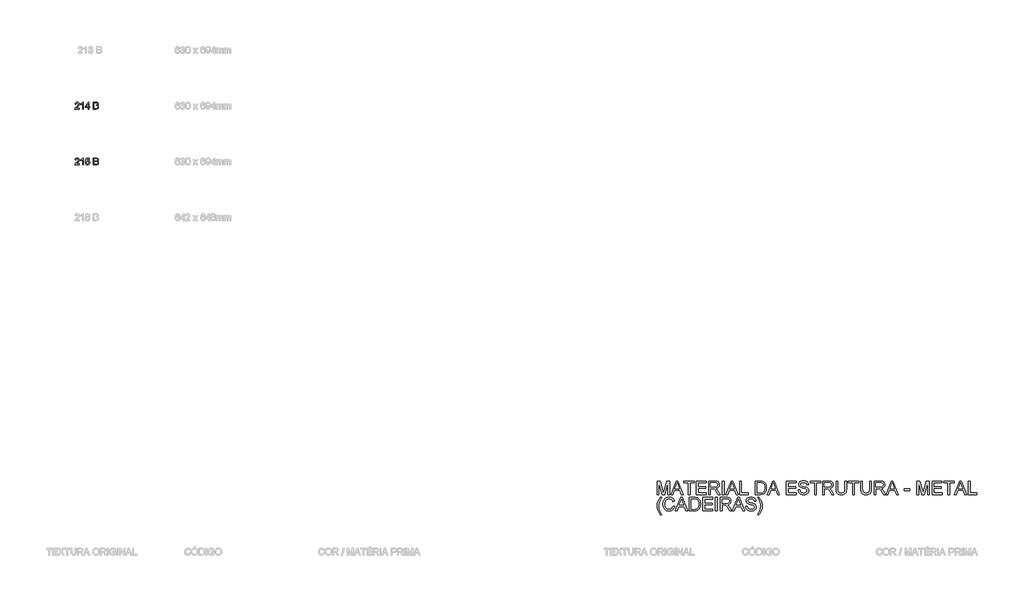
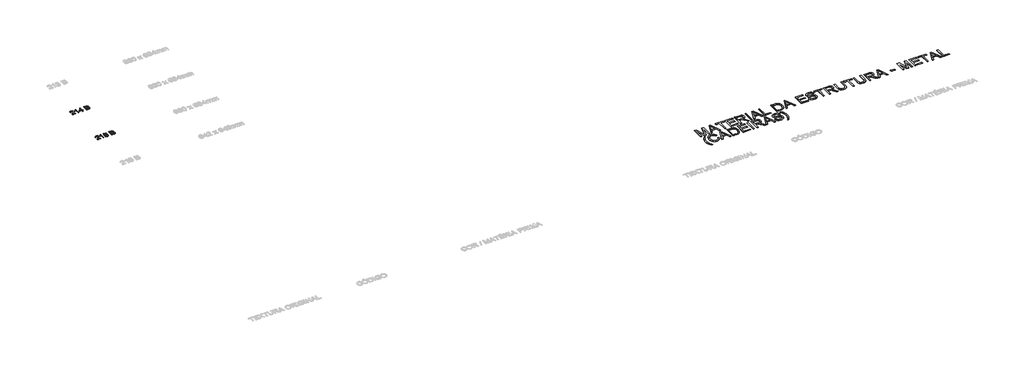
# One storey, part 30 of 35: 3 proxies.
"""IFC4 building model written with IfcOpenShell, lengths in millimetres."""

from ifc_helpers import new_model, si_unit, origin, origin_with_axes, place, context, project, spatial, polyline, outline, extrude, element, save

model = new_model("IFC4")

# Units and contexts
model_context = context("Model", 3, world=origin())
ifc_project = project(units=[si_unit("LENGTHUNIT", "METRE", prefix="MILLI")], contexts=[model_context])

# Site, building, storey
site = spatial("IfcSite", under=ifc_project)
building = spatial("IfcBuilding", under=site)
storey = spatial("IfcBuildingStorey", under=building, Name="Marelli - Linha YOU - Planta Baixa", Elevation=0.0)

# Proxies
placement = place(None, origin())
element("IfcBuildingElementProxy", 1, Name="300mm Arial", ObjectType="300mm Arial", at=placement, inside=storey, context=model_context, shape_type="SweptSolid", body=[
    extrude(outline(polyline([(-29649.0268614, 3757.1047962), (-29649.0268614, 3719.4336799), (-29846.800222, 3719.4336799), (-29842.75352, 3745.4061488), (-29833.4644997, 3765.7040379), (-29819.8712599, 3785.3949217), (-29800.2079673, 3806.0055104), (-29772.7087882, 3829.0625145), (-29732.0578277, 3865.1701323), (-29707.6672514, 3891.8231829), (-29695.4719633, 3913.4546442), (-29691.4068672, 3934.4974943), (-29695.242037, 3953.3606436), (-29706.7475464, 3969.0416137), (-29724.4334733, 3979.609024), (-29746.8098957, 3983.1314941), (-29770.3083581, 3979.6917974), (-29788.5645022, 3969.3727075), (-29800.345923, 3952.9835646), (-29804.4202161, 3931.3337092), (-29842.0913324, 3936.0425987), (-29832.9586619, 3972.4813103), (-29824.4123033, 3987.0172476), (-29813.2125958, 3999.0975727), (-29799.6170568, 4008.5935267), (-29783.8832038, 4015.376351), (-29746.0005553, 4020.8026104), (-29725.8107316, 4019.2942942), (-29707.8419954, 4014.7693457), (-29692.0943467, 4007.2277648), (-29678.5677856, 3996.6695515), (-29667.7037704, 3983.8764551), (-29659.9437596, 3969.6302249), (-29655.2877531, 3953.9308607), (-29653.7357509, 3936.7783627), (-29655.409614, 3918.761342), (-29660.4312032, 3901.057021), (-29669.3431446, 3883.0491973), (-29682.6880639, 3864.1216686), (-29703.9608403, 3841.5245171), (-29736.6563526, 3812.5078247), (-29779.9928517, 3776.2714482), (-29796.9889998, 3757.1047962), (-29649.0268614, 3757.1047962)])), origin_with_axes(), (0.0, 0.0, 1.0), 10.0),
    extrude(outline(polyline([(-29470.0890589, 3719.4336799), (-29507.7601752, 3719.4336799), (-29507.7601752, 3954.2895457), (-29543.4447288, 3928.8688998), (-29583.1024078, 3909.8494006), (-29583.1024078, 3945.4603778), (-29553.5154984, 3961.5552151), (-29527.8833204, 3980.7034729), (-29507.6774018, 4001.0657413), (-29494.3692706, 4020.8026104), (-29470.0890589, 4020.8026104), (-29470.0890589, 3719.4336799)])), origin_with_axes(), (0.0, 0.0, 1.0), 10.0),
    extrude(outline(polyline([(-29258.1890297, 3719.4336799), (-29258.1890297, 3790.067023), (-29394.7468263, 3790.067023), (-29394.7468263, 3827.7381393), (-29248.7712506, 4016.0937208), (-29220.5179134, 4016.0937208), (-29220.5179134, 3827.7381393), (-29182.8467971, 3827.7381393), (-29182.8467971, 3790.067023), (-29220.5179134, 3790.067023), (-29220.5179134, 3719.4336799), (-29258.1890297, 3719.4336799)]), holes=[polyline([(-29258.1890297, 3827.7381393), (-29258.1890297, 3944.1360026), (-29348.3936949, 3827.7381393), (-29258.1890297, 3827.7381393)])]), origin_with_axes(), (0.0, 0.0, 1.0), 10.0),
    extrude(outline(polyline([(-29018.0356633, 3719.4336799), (-29018.0356633, 4020.8026104), (-28903.0357516, 4020.8026104), (-28871.407097, 4018.5861214), (-28846.7130181, 4011.9366543), (-28827.7854894, 4000.6886623), (-28813.4564857, 3984.6765985), (-28804.4341798, 3965.8410403), (-28801.4267445, 3946.1225654), (-28803.9559332, 3927.9767859), (-28811.5434994, 3910.9162584), (-28824.2446252, 3895.9894465), (-28842.1144932, 3884.2448138), (-28820.7681404, 3873.0979893), (-28804.9951998, 3856.1386293), (-28795.255524, 3834.4887739), (-28792.0089654, 3809.2704632), (-28794.2254544, 3788.2552042), (-28800.8749215, 3768.7666555), (-28810.7985383, 3752.1935716), (-28822.8374766, 3739.9247071), (-28837.5803476, 3731.0403569), (-28855.6157624, 3724.6208161), (-28903.9186683, 3719.4336799), (-29018.0356633, 3719.4336799)]), holes=[polyline([(-28980.3645469, 3898.3714824), (-28911.5706138, 3898.3714824), (-28871.3979, 3901.6088439), (-28857.3356107, 3907.1914532), (-28847.2280529, 3915.5515716), (-28841.1304088, 3926.5604403), (-28839.0978608, 3940.0893006), (-28840.9924531, 3953.2226879), (-28846.6762299, 3964.6638179), (-28855.8916739, 3973.5941533), (-28868.3812676, 3979.1951567), (-28916.7945382, 3983.1314941), (-28980.3645469, 3983.1314941), (-28980.3645469, 3898.3714824)]), polyline([(-28980.3645469, 3757.1047962), (-28903.109328, 3757.1047962), (-28875.1502963, 3758.5763242), (-28851.495484, 3766.7800927), (-28835.823711, 3783.5187235), (-28831.2159891, 3795.3461296), (-28829.6800817, 3808.9025812), (-28831.4827035, 3824.6479306), (-28836.8905688, 3838.185988), (-28846.3359391, 3848.7717924), (-28860.2510755, 3855.6603827), (-28879.9603534, 3859.4403702), (-28906.7881479, 3860.7003661), (-28980.3645469, 3860.7003661), (-28980.3645469, 3757.1047962)])]), origin_with_axes(), (0.0, 0.0, 1.0), 10.0),
])
element("IfcBuildingElementProxy", 2, Name="300mm Arial", ObjectType="300mm Arial", at=placement, inside=storey, context=model_context, shape_type="SweptSolid", body=[
    extrude(outline(polyline([(-29649.0268614, 1257.1047962), (-29649.0268614, 1219.4336799), (-29846.800222, 1219.4336799), (-29842.75352, 1245.4061488), (-29833.4644997, 1265.7040379), (-29819.8712599, 1285.3949217), (-29800.2079673, 1306.0055104), (-29772.7087882, 1329.0625145), (-29732.0578277, 1365.1701323), (-29707.6672514, 1391.8231829), (-29695.4719633, 1413.4546442), (-29691.4068672, 1434.4974943), (-29695.242037, 1453.3606436), (-29706.7475464, 1469.0416137), (-29724.4334733, 1479.609024), (-29746.8098957, 1483.1314941), (-29770.3083581, 1479.6917974), (-29788.5645022, 1469.3727075), (-29800.345923, 1452.9835646), (-29804.4202161, 1431.3337092), (-29842.0913324, 1436.0425987), (-29832.9586619, 1472.4813103), (-29824.4123033, 1487.0172476), (-29813.2125958, 1499.0975727), (-29799.6170568, 1508.5935267), (-29783.8832038, 1515.376351), (-29746.0005553, 1520.8026104), (-29725.8107316, 1519.2942942), (-29707.8419954, 1514.7693457), (-29692.0943467, 1507.2277648), (-29678.5677856, 1496.6695515), (-29667.7037704, 1483.8764551), (-29659.9437596, 1469.6302249), (-29655.2877531, 1453.9308607), (-29653.7357509, 1436.7783627), (-29655.409614, 1418.761342), (-29660.4312032, 1401.057021), (-29669.3431446, 1383.0491973), (-29682.6880639, 1364.1216686), (-29703.9608403, 1341.5245171), (-29736.6563526, 1312.5078247), (-29779.9928517, 1276.2714482), (-29796.9889998, 1257.1047962), (-29649.0268614, 1257.1047962)])), origin_with_axes(), (0.0, 0.0, 1.0), 10.0),
    extrude(outline(polyline([(-29470.0890589, 1219.4336799), (-29507.7601752, 1219.4336799), (-29507.7601752, 1454.2895457), (-29543.4447288, 1428.8688998), (-29583.1024078, 1409.8494006), (-29583.1024078, 1445.4603778), (-29553.5154984, 1461.5552151), (-29527.8833204, 1480.7034729), (-29507.6774018, 1501.0657413), (-29494.3692706, 1520.8026104), (-29470.0890589, 1520.8026104), (-29470.0890589, 1219.4336799)])), origin_with_axes(), (0.0, 0.0, 1.0), 10.0),
    extrude(outline(polyline([(-29380.6201577, 1299.4848021), (-29342.9490414, 1304.1936916), (-29336.0328599, 1281.578146), (-29323.9663304, 1265.3821411), (-29306.8046354, 1255.6424653), (-29284.602957, 1252.3959067), (-29257.6004185, 1256.9116582), (-29237.3669088, 1270.4589127), (-29224.7301622, 1291.4741716), (-29220.5179134, 1318.3939366), (-29224.4634478, 1343.7410061), (-29236.300051, 1363.1283872), (-29256.1196935, 1375.43404), (-29284.0143458, 1379.5359242), (-29302.2888839, 1377.8988494), (-29317.0869371, 1372.9876247), (-29338.2401519, 1355.9914765), (-29375.9112682, 1360.7003661), (-29342.9490414, 1516.0937208), (-29196.9734657, 1516.0937208), (-29196.9734657, 1478.4226045), (-29312.4884122, 1478.4226045), (-29328.6016436, 1395.4284264), (-29301.6910756, 1411.762387), (-29273.4929207, 1417.2070405), (-29255.1471055, 1415.5193819), (-29238.2958108, 1410.4564059), (-29222.9390368, 1402.0181127), (-29209.0767833, 1390.2045021), (-29197.6011644, 1375.7375426), (-29189.4042937, 1359.3392027), (-29184.4861712, 1341.0094823), (-29182.8467971, 1320.7483814), (-29188.7513031, 1283.0772651), (-29196.1319356, 1266.283452), (-29206.4648212, 1250.8508023), (-29222.1182001, 1235.0456721), (-29240.3835411, 1223.7562934), (-29261.2608444, 1216.9826661), (-29284.7501098, 1214.7247904), (-29321.7498414, 1220.5281289), (-29337.4285122, 1227.782302), (-29351.2263863, 1237.9381443), (-29362.7066038, 1250.4898181), (-29371.4323049, 1264.9314857), (-29380.6201577, 1299.4848021)])), origin_with_axes(), (0.0, 0.0, 1.0), 10.0),
    extrude(outline(polyline([(-29018.0356633, 1219.4336799), (-29018.0356633, 1520.8026104), (-28903.0357516, 1520.8026104), (-28871.407097, 1518.5861214), (-28846.7130181, 1511.9366543), (-28827.7854894, 1500.6886623), (-28813.4564857, 1484.6765985), (-28804.4341798, 1465.8410403), (-28801.4267445, 1446.1225654), (-28803.9559332, 1427.9767859), (-28811.5434994, 1410.9162584), (-28824.2446252, 1395.9894465), (-28842.1144932, 1384.2448138), (-28820.7681404, 1373.0979893), (-28804.9951998, 1356.1386293), (-28795.255524, 1334.4887739), (-28792.0089654, 1309.2704632), (-28794.2254544, 1288.2552042), (-28800.8749215, 1268.7666555), (-28810.7985383, 1252.1935716), (-28822.8374766, 1239.9247071), (-28837.5803476, 1231.0403569), (-28855.6157624, 1224.6208161), (-28903.9186683, 1219.4336799), (-29018.0356633, 1219.4336799)]), holes=[polyline([(-28980.3645469, 1398.3714824), (-28911.5706138, 1398.3714824), (-28871.3979, 1401.6088439), (-28857.3356107, 1407.1914532), (-28847.2280529, 1415.5515716), (-28841.1304088, 1426.5604403), (-28839.0978608, 1440.0893006), (-28840.9924531, 1453.2226879), (-28846.6762299, 1464.6638179), (-28855.8916739, 1473.5941533), (-28868.3812676, 1479.1951567), (-28916.7945382, 1483.1314941), (-28980.3645469, 1483.1314941), (-28980.3645469, 1398.3714824)]), polyline([(-28980.3645469, 1257.1047962), (-28903.109328, 1257.1047962), (-28875.1502963, 1258.5763242), (-28851.495484, 1266.7800927), (-28835.823711, 1283.5187235), (-28831.2159891, 1295.3461296), (-28829.6800817, 1308.9025812), (-28831.4827035, 1324.6479306), (-28836.8905688, 1338.185988), (-28846.3359391, 1348.7717924), (-28860.2510755, 1355.6603827), (-28879.9603534, 1359.4403702), (-28906.7881479, 1360.7003661), (-28980.3645469, 1360.7003661), (-28980.3645469, 1257.1047962)])]), origin_with_axes(), (0.0, 0.0, 1.0), 10.0),
])
element("IfcBuildingElementProxy", 3, Name="600mm Arial", ObjectType="600mm Arial", at=placement, inside=storey, context=model_context, shape_type="SweptSolid", body=[
    extrude(outline(polyline([(-3736.7633254, -13564.6418665), (-3736.7633254, -12961.9040056), (-3607.1217103, -12961.9040056), (-3483.8076655, -13386.7341337), (-3458.9388427, -13475.4672709), (-3432.0098806, -13379.3764938), (-3310.755975, -12961.9040056), (-3181.1143599, -12961.9040056), (-3181.1143599, -13564.6418665), (-3256.4565925, -13564.6418665), (-3256.4565925, -13037.2462382), (-3407.8768217, -13564.6418665), (-3510.0008636, -13564.6418665), (-3661.4210928, -13037.2462382), (-3661.4210928, -13564.6418665), (-3736.7633254, -13564.6418665)])), origin_with_axes(), (0.0, 0.0, 1.0), 10.0),
    extrude(outline(polyline([(-3119.4573375, -13564.6418665), (-2878.8625127, -12961.9040056), (-2814.7038927, -12961.9040056), (-2574.1090679, -13564.6418665), (-2653.7187316, -13564.6418665), (-2722.7333939, -13376.286285), (-2970.9801643, -13376.286285), (-3039.8476737, -13564.6418665), (-3119.4573375, -13564.6418665)]), holes=[polyline([(-2943.3154382, -13300.9440524), (-2750.2509671, -13300.9440524), (-2804.5503496, -13152.7611847), (-2846.7832027, -13037.2462382), (-2884.3071662, -13139.8117385), (-2943.3154382, -13300.9440524)])]), origin_with_axes(), (0.0, 0.0, 1.0), 10.0),
    extrude(outline(polyline([(-2342.9320221, -13564.6418665), (-2342.9320221, -13037.2462382), (-2540.7053827, -13037.2462382), (-2540.7053827, -12961.9040056), (-2069.8164289, -12961.9040056), (-2069.8164289, -13037.2462382), (-2267.5897895, -13037.2462382), (-2267.5897895, -13564.6418665), (-2342.9320221, -13564.6418665)])), origin_with_axes(), (0.0, 0.0, 1.0), 10.0),
    extrude(outline(polyline([(-1985.0564172, -13564.6418665), (-1985.0564172, -12961.9040056), (-1551.8385797, -12961.9040056), (-1551.8385797, -13037.2462382), (-1909.7141846, -13037.2462382), (-1909.7141846, -13216.1840407), (-1570.6741378, -13216.1840407), (-1570.6741378, -13291.5262733), (-1909.7141846, -13291.5262733), (-1909.7141846, -13489.2996339), (-1542.4208006, -13489.2996339), (-1542.4208006, -13564.6418665), (-1985.0564172, -13564.6418665)])), origin_with_axes(), (0.0, 0.0, 1.0), 10.0),
    extrude(outline(polyline([(-1429.4074517, -13564.6418665), (-1429.4074517, -12961.9040056), (-1169.6827631, -12961.9040056), (-1099.8771545, -12965.9691017), (-1049.091045, -12978.1643898), (-1029.4921318, -12987.8580804), (-1011.9717517, -13000.6787679), (-996.529905, -13016.6264524), (-983.1665915, -13035.7011339), (-972.3830505, -13056.8773412), (-964.6805213, -13079.1296034), (-960.0590037, -13102.4579204), (-958.5184978, -13126.8622923), (-961.0706792, -13157.8195622), (-968.7272232, -13186.2384463), (-981.4881299, -13212.1189447), (-999.3533993, -13235.4610572), (-1022.5529576, -13255.519823), (-1051.3167311, -13271.550281), (-1085.6447198, -13283.5524311), (-1125.5369236, -13291.5262733), (-1100.704889, -13307.7498693), (-1082.7154594, -13323.7527361), (-1051.85016, -13360.3569946), (-1021.6470482, -13401.3022607), (-921.1416871, -13564.6418665), (-1008.697602, -13564.6418665), (-1087.1300433, -13439.709141), (-1143.7838706, -13357.0092685), (-1164.8451148, -13332.8946037), (-1183.5887025, -13317.9402006), (-1219.4204088, -13303.5928028), (-1263.1247898, -13300.9440524), (-1354.065219, -13300.9440524), (-1354.065219, -13564.6418665), (-1429.4074517, -13564.6418665)]), holes=[polyline([(-1354.065219, -13225.6018198), (-1185.4281125, -13225.6018198), (-1136.9964478, -13222.9346753), (-1099.417302, -13214.9332419), (-1071.1271766, -13201.0640907), (-1050.562573, -13180.7937928), (-1038.0361911, -13156.2744578), (-1033.8607304, -13129.6581954), (-1035.8518917, -13110.3903759), (-1041.8253756, -13092.9067841), (-1051.7811821, -13077.20742), (-1065.7193112, -13063.2922835), (-1083.9616597, -13051.8971387), (-1106.8301242, -13043.7577496), (-1134.3247048, -13038.8741161), (-1166.4454015, -13037.2462382), (-1354.065219, -13037.2462382), (-1354.065219, -13225.6018198)])]), origin_with_axes(), (0.0, 0.0, 1.0), 10.0),
    extrude(outline(polyline([(-817.2518117, -13564.6418665), (-817.2518117, -12961.9040056), (-741.9095791, -12961.9040056), (-741.9095791, -13564.6418665), (-817.2518117, -13564.6418665)])), origin_with_axes(), (0.0, 0.0, 1.0), 10.0),
    extrude(outline(polyline([(-661.4169985, -13564.6418665), (-420.8221737, -12961.9040056), (-356.6635537, -12961.9040056), (-116.0687289, -13564.6418665), (-195.6783926, -13564.6418665), (-264.6930549, -13376.286285), (-512.9398253, -13376.286285), (-581.8073348, -13564.6418665), (-661.4169985, -13564.6418665)]), holes=[polyline([(-485.2750992, -13300.9440524), (-292.2106282, -13300.9440524), (-346.5100107, -13152.7611847), (-388.7428637, -13037.2462382), (-426.2668272, -13139.8117385), (-485.2750992, -13300.9440524)])]), origin_with_axes(), (0.0, 0.0, 1.0), 10.0),
    extrude(outline(polyline([(-35.5761483, -13564.6418665), (-35.5761483, -12961.9040056), (39.7660843, -12961.9040056), (39.7660843, -13489.2996339), (341.1350147, -13489.2996339), (341.1350147, -13564.6418665), (-35.5761483, -13564.6418665)])), origin_with_axes(), (0.0, 0.0, 1.0), 10.0),
    extrude(outline(polyline([(661.3395033, -13564.6418665), (661.3395033, -12961.9040056), (869.266407, -12961.9040056), (931.401676, -12964.0745094), (976.8351024, -12970.5860207), (1024.880491, -12987.3246515), (1065.4210868, -13013.7017906), (1087.760721, -13035.2596755), (1107.1021169, -13059.6134636), (1123.4452745, -13086.7631548), (1136.7901939, -13116.7087492), (1147.1552691, -13149.1743353), (1154.5588943, -13183.8840015), (1160.4817944, -13260.0355745), (1156.4718806, -13324.7276234), (1144.4421394, -13381.6573621), (1126.121616, -13430.125815), (1103.2393559, -13469.4340062), (1076.8990051, -13500.4648525), (1048.2042095, -13524.1012707), (1015.2603768, -13541.6308477), (976.1729148, -13554.3411707), (930.8682471, -13562.0666926), (879.2727973, -13564.6418665), (661.3395033, -13564.6418665)]), holes=[polyline([(736.6817359, -13489.2996339), (870.002171, -13489.2996339), (925.1476821, -13486.5773072), (966.9758649, -13478.4103269), (998.5401401, -13465.2769396), (1022.8939282, -13447.6553921), (1049.0687321, -13415.0426532), (1068.7320248, -13372.8281942), (1081.0376775, -13320.8280742), (1085.1395618, -13258.8583521), (1083.1300064, -13215.1171829), (1077.1013402, -13176.7470908), (1067.0535632, -13143.7480759), (1052.9866754, -13116.120138), (1036.041111, -13093.2378779), (1017.3573042, -13074.4758962), (996.9352549, -13059.8341928), (974.7749632, -13049.3127677), (931.4384642, -13040.2628706), (867.9420318, -13037.2462382), (736.6817359, -13037.2462382), (736.6817359, -13489.2996339)])]), origin_with_axes(), (0.0, 0.0, 1.0), 10.0),
    extrude(outline(polyline([(1193.8854795, -13564.6418665), (1434.4803044, -12961.9040056), (1498.6389243, -12961.9040056), (1739.2337492, -13564.6418665), (1659.6240854, -13564.6418665), (1590.6094231, -13376.286285), (1342.3626528, -13376.286285), (1273.4951433, -13564.6418665), (1193.8854795, -13564.6418665)]), holes=[polyline([(1370.0273788, -13300.9440524), (1563.0918499, -13300.9440524), (1508.7924674, -13152.7611847), (1466.5596144, -13037.2462382), (1429.0356509, -13139.8117385), (1370.0273788, -13300.9440524)])]), origin_with_axes(), (0.0, 0.0, 1.0), 10.0),
    extrude(outline(polyline([(2055.1708067, -13564.6418665), (2055.1708067, -12961.9040056), (2488.3886442, -12961.9040056), (2488.3886442, -13037.2462382), (2130.5130393, -13037.2462382), (2130.5130393, -13216.1840407), (2469.553086, -13216.1840407), (2469.553086, -13291.5262733), (2130.5130393, -13291.5262733), (2130.5130393, -13489.2996339), (2497.8064233, -13489.2996339), (2497.8064233, -13564.6418665), (2055.1708067, -13564.6418665)])), origin_with_axes(), (0.0, 0.0, 1.0), 10.0),
    extrude(outline(polyline([(2582.5664349, -13357.4507268), (2657.9086676, -13357.4507268), (2666.5538944, -13399.2605156), (2682.1888792, -13432.8665359), (2706.5794555, -13459.5379805), (2741.4914569, -13480.5440424), (2784.1657683, -13494.1740704), (2831.8432749, -13498.717413), (2873.8186105, -13495.2777163), (2910.5700218, -13484.9586264), (2940.3500693, -13468.6246658), (2961.4113136, -13447.1403573), (2973.9376955, -13422.4738695), (2978.1131562, -13396.5933711), (2974.9861592, -13371.3750604), (2965.6051683, -13349.5780522), (2946.548881, -13330.9816173), (2914.3959946, -13315.3650266), (2804.6935836, -13286.5966546), (2732.6806831, -13267.5587613), (2686.6034632, -13249.4405731), (2649.0978938, -13224.0935036), (2622.5184196, -13193.375357), (2606.6810997, -13157.9483209), (2601.4019931, -13118.4745828), (2603.0344694, -13096.0383796), (2607.9318985, -13074.3471375), (2616.0942803, -13053.4008564), (2627.5216147, -13033.1995363), (2642.0851432, -13014.5663132), (2659.656107, -12998.3243232), (2680.2345061, -12984.473566), (2703.8203405, -12973.0140419), (2756.8321361, -12957.6181804), (2815.5093143, -12952.4862266), (2879.0793231, -12957.8573037), (2934.7030807, -12973.9705351), (2959.0384747, -12985.9726852), (2980.3940245, -13000.4948269), (2998.7697302, -13017.5369604), (3014.1655917, -13037.0990854), (3026.4620474, -13058.6109851), (3035.5395356, -13081.5024423), (3041.3980564, -13105.7734569), (3044.0376097, -13131.424029), (2968.6953771, -13131.424029), (2963.6553937, -13107.3829406), (2954.8630141, -13086.4688492), (2942.318238, -13068.6817547), (2926.0210656, -13054.0216572), (2905.6679943, -13042.5621331), (2880.9555212, -13034.3767587), (2851.8836466, -13029.465534), (2818.4523702, -13027.8284592), (2783.9542361, -13029.4471399), (2754.4776913, -13034.3031823), (2730.0227357, -13042.3965862), (2710.5893693, -13053.7273516), (2695.782119, -13067.3481825), (2685.2055116, -13082.3117827), (2678.8595472, -13098.6181521), (2676.7442257, -13116.2672908), (2678.2433448, -13131.4516202), (2682.7407022, -13145.2196038), (2690.2362979, -13157.5712418), (2700.7301318, -13168.5065341), (2717.2480334, -13178.8624123), (2743.2572904, -13189.3286551), (2823.749871, -13210.5922344), (2906.8176255, -13230.7889559), (2957.070306, -13248.4105035), (3000.020529, -13275.7441357), (3016.6258025, -13291.8113819), (3029.9845175, -13309.4789147), (3040.2530237, -13328.6547637), (3047.5876709, -13349.2469584), (3053.4553888, -13394.6803848), (3051.7677301, -13418.2478251), (3046.7047542, -13441.1254867), (3038.2664609, -13463.3133695), (3026.4528503, -13484.8114736), (3011.4708561, -13504.7874659), (2993.5274118, -13522.4090135), (2972.6225174, -13537.6761163), (2948.7561729, -13550.5887743), (2922.6227557, -13560.8572805), (2894.9166429, -13568.1919278), (2834.7863308, -13574.0596456), (2796.2460933, -13572.477753), (2760.9708085, -13567.7320753), (2728.9604764, -13559.8226124), (2700.215097, -13548.7493643), (2674.5599264, -13534.493937), (2651.8202205, -13517.0379364), (2631.9959795, -13496.3813623), (2615.0872033, -13472.5242149), (2601.4663724, -13446.2390464), (2591.5059674, -13418.2984089), (2585.2059883, -13388.7023023), (2582.5664349, -13357.4507268)])), origin_with_axes(), (0.0, 0.0, 1.0), 10.0),
    extrude(outline(polyline([(3317.1532029, -13564.6418665), (3317.1532029, -13037.2462382), (3119.3798423, -13037.2462382), (3119.3798423, -12961.9040056), (3590.2687961, -12961.9040056), (3590.2687961, -13037.2462382), (3392.4954355, -13037.2462382), (3392.4954355, -13564.6418665), (3317.1532029, -13564.6418665)])), origin_with_axes(), (0.0, 0.0, 1.0), 10.0),
    extrude(outline(polyline([(3675.0288078, -13564.6418665), (3675.0288078, -12961.9040056), (3934.7534964, -12961.9040056), (4004.559105, -12965.9691017), (4055.3452144, -12978.1643898), (4074.9441277, -12987.8580804), (4092.4645077, -13000.6787679), (4107.9063545, -13016.6264524), (4121.269668, -13035.7011339), (4132.0532089, -13056.8773412), (4139.7557382, -13079.1296034), (4144.3772558, -13102.4579204), (4145.9177616, -13126.8622923), (4143.3655803, -13157.8195622), (4135.7090363, -13186.2384463), (4122.9481296, -13212.1189447), (4105.0828602, -13235.4610572), (4081.8833019, -13255.519823), (4053.1195284, -13271.550281), (4018.7915397, -13283.5524311), (3978.8993358, -13291.5262733), (4003.7313705, -13307.7498693), (4021.7208001, -13323.7527361), (4052.5860995, -13360.3569946), (4082.7892113, -13401.3022607), (4183.2945724, -13564.6418665), (4095.7386575, -13564.6418665), (4017.3062161, -13439.709141), (3960.6523889, -13357.0092685), (3939.5911446, -13332.8946037), (3920.847557, -13317.9402006), (3885.0158507, -13303.5928028), (3841.3114696, -13300.9440524), (3750.3710404, -13300.9440524), (3750.3710404, -13564.6418665), (3675.0288078, -13564.6418665)]), holes=[polyline([(3750.3710404, -13225.6018198), (3919.008147, -13225.6018198), (3967.4398117, -13222.9346753), (4005.0189575, -13214.9332419), (4033.3090829, -13201.0640907), (4053.8736864, -13180.7937928), (4066.4000684, -13156.2744578), (4070.575529, -13129.6581954), (4068.5843677, -13110.3903759), (4062.6108838, -13092.9067841), (4052.6550773, -13077.20742), (4038.7169482, -13063.2922835), (4020.4745998, -13051.8971387), (3997.6061353, -13043.7577496), (3970.1115547, -13038.8741161), (3937.990858, -13037.2462382), (3750.3710404, -13037.2462382), (3750.3710404, -13225.6018198)])]), origin_with_axes(), (0.0, 0.0, 1.0), 10.0),
    extrude(outline(polyline([(4673.3133899, -12961.9040056), (4748.6556225, -12961.9040056), (4748.6556225, -13309.6260675), (4743.5420628, -13391.0567471), (4737.1501131, -13424.7501393), (4728.2013836, -13453.7622332), (4715.923322, -13479.1920761), (4699.5433762, -13502.1387156), (4679.0615461, -13522.6021515), (4654.4778318, -13540.582384), (4625.7646421, -13555.228686), (4592.8943858, -13565.6903302), (4555.867063, -13571.9673168), (4514.6826736, -13574.0596456), (4474.5145583, -13572.2386297), (4438.1816127, -13566.7755821), (4405.683837, -13557.6705027), (4377.021231, -13544.9233916), (4352.1891963, -13528.7227882), (4331.1831344, -13509.2572322), (4314.0030452, -13486.5267234), (4300.6489288, -13460.5312619), (4290.63794, -13430.3787339), (4283.4872337, -13395.1770255), (4279.19681, -13354.9261367), (4277.7666687, -13309.6260675), (4277.7666687, -12961.9040056), (4353.1089013, -12961.9040056), (4353.1089013, -13306.9773171), (4356.8245095, -13374.6859983), (4367.9713339, -13421.830076), (4376.7361225, -13439.2079018), (4388.1680555, -13454.4796031), (4402.2671329, -13467.64518), (4419.0333549, -13478.7046325), (4459.2796451, -13493.7142179), (4507.6193393, -13498.717413), (4549.1440195, -13496.2434066), (4584.2491589, -13488.8213873), (4612.9347575, -13476.4513552), (4635.2008152, -13459.1333103), (4651.8750667, -13434.7795222), (4663.7852463, -13401.3022607), (4670.931354, -13358.7015256), (4673.3133899, -13306.9773171), (4673.3133899, -12961.9040056)])), origin_with_axes(), (0.0, 0.0, 1.0), 10.0),
    extrude(outline(polyline([(5031.1889948, -13564.6418665), (5031.1889948, -13037.2462382), (4833.4156342, -13037.2462382), (4833.4156342, -12961.9040056), (5304.3045881, -12961.9040056), (5304.3045881, -13037.2462382), (5106.5312274, -13037.2462382), (5106.5312274, -13564.6418665), (5031.1889948, -13564.6418665)])), origin_with_axes(), (0.0, 0.0, 1.0), 10.0),
    extrude(outline(polyline([(5784.611321, -12961.9040056), (5859.9535536, -12961.9040056), (5859.9535536, -13309.6260675), (5854.8399938, -13391.0567471), (5848.4480442, -13424.7501393), (5839.4993146, -13453.7622332), (5827.221253, -13479.1920761), (5810.8413072, -13502.1387156), (5790.3594771, -13522.6021515), (5765.7757628, -13540.582384), (5737.0625731, -13555.228686), (5704.1923168, -13565.6903302), (5667.164994, -13571.9673168), (5625.9806046, -13574.0596456), (5585.8124893, -13572.2386297), (5549.4795437, -13566.7755821), (5516.981768, -13557.6705027), (5488.319162, -13544.9233916), (5463.4871274, -13528.7227882), (5442.4810654, -13509.2572322), (5425.3009763, -13486.5267234), (5411.9468598, -13460.5312619), (5401.935871, -13430.3787339), (5394.7851648, -13395.1770255), (5390.494741, -13354.9261367), (5389.0645997, -13309.6260675), (5389.0645997, -12961.9040056), (5464.4068324, -12961.9040056), (5464.4068324, -13306.9773171), (5468.1224405, -13374.6859983), (5479.269265, -13421.830076), (5488.0340535, -13439.2079018), (5499.4659865, -13454.4796031), (5513.565064, -13467.64518), (5530.3312859, -13478.7046325), (5570.5775762, -13493.7142179), (5618.9172703, -13498.717413), (5660.4419505, -13496.2434066), (5695.5470899, -13488.8213873), (5724.2326885, -13476.4513552), (5746.4987463, -13459.1333103), (5763.1729977, -13434.7795222), (5775.0831773, -13401.3022607), (5782.229285, -13358.7015256), (5784.611321, -13306.9773171), (5784.611321, -12961.9040056)])), origin_with_axes(), (0.0, 0.0, 1.0), 10.0),
    extrude(outline(polyline([(5991.8024606, -13564.6418665), (5991.8024606, -12961.9040056), (6251.5271492, -12961.9040056), (6321.3327578, -12965.9691017), (6372.1188673, -12978.1643898), (6391.7177805, -12987.8580804), (6409.2381606, -13000.6787679), (6424.6800073, -13016.6264524), (6438.0433208, -13035.7011339), (6448.8268618, -13056.8773412), (6456.529391, -13079.1296034), (6461.1509086, -13102.4579204), (6462.6914145, -13126.8622923), (6460.1392331, -13157.8195622), (6452.4826891, -13186.2384463), (6439.7217824, -13212.1189447), (6421.856513, -13235.4610572), (6398.6569547, -13255.519823), (6369.8931812, -13271.550281), (6335.5651925, -13283.5524311), (6295.6729887, -13291.5262733), (6320.5050233, -13307.7498693), (6338.4944529, -13323.7527361), (6369.3597523, -13360.3569946), (6399.5628641, -13401.3022607), (6500.0682252, -13564.6418665), (6412.5123103, -13564.6418665), (6334.079869, -13439.709141), (6277.4260417, -13357.0092685), (6256.3647975, -13332.8946037), (6237.6212098, -13317.9402006), (6201.7895035, -13303.5928028), (6158.0851225, -13300.9440524), (6067.1446933, -13300.9440524), (6067.1446933, -13564.6418665), (5991.8024606, -13564.6418665)]), holes=[polyline([(6067.1446933, -13225.6018198), (6235.7817998, -13225.6018198), (6284.2134645, -13222.9346753), (6321.7926103, -13214.9332419), (6350.0827357, -13201.0640907), (6370.6473393, -13180.7937928), (6383.1737212, -13156.2744578), (6387.3491819, -13129.6581954), (6385.3580206, -13110.3903759), (6379.3845367, -13092.9067841), (6369.4287302, -13077.20742), (6355.4906011, -13063.2922835), (6337.2482526, -13051.8971387), (6314.3797881, -13043.7577496), (6286.8852075, -13038.8741161), (6254.7645108, -13037.2462382), (6067.1446933, -13037.2462382), (6067.1446933, -13225.6018198)])]), origin_with_axes(), (0.0, 0.0, 1.0), 10.0),
    extrude(outline(polyline([(6524.3484369, -13564.6418665), (6764.9432617, -12961.9040056), (6829.1018817, -12961.9040056), (7069.6967065, -13564.6418665), (6990.0870428, -13564.6418665), (6921.0723805, -13376.286285), (6672.8256101, -13376.286285), (6603.9581006, -13564.6418665), (6524.3484369, -13564.6418665)]), holes=[polyline([(6700.4903361, -13300.9440524), (6893.5548072, -13300.9440524), (6839.2554247, -13152.7611847), (6797.0225717, -13037.2462382), (6759.4986082, -13139.8117385), (6700.4903361, -13300.9440524)])]), origin_with_axes(), (0.0, 0.0, 1.0), 10.0),
    extrude(outline(polyline([(7338.5448686, -13385.7040641), (7338.5448686, -13310.3618315), (7573.9893455, -13310.3618315), (7573.9893455, -13385.7040641), (7338.5448686, -13385.7040641)])), origin_with_axes(), (0.0, 0.0, 1.0), 10.0),
    extrude(outline(polyline([(7903.6116132, -13564.6418665), (7903.6116132, -12961.9040056), (8033.2532283, -12961.9040056), (8156.5672731, -13386.7341337), (8181.4360959, -13475.4672709), (8208.365058, -13379.3764938), (8329.6189636, -12961.9040056), (8459.2605787, -12961.9040056), (8459.2605787, -13564.6418665), (8383.9183461, -13564.6418665), (8383.9183461, -13037.2462382), (8232.4981169, -13564.6418665), (8130.374075, -13564.6418665), (7978.9538458, -13037.2462382), (7978.9538458, -13564.6418665), (7903.6116132, -13564.6418665)])), origin_with_axes(), (0.0, 0.0, 1.0), 10.0),
    extrude(outline(polyline([(8591.1094858, -13564.6418665), (8591.1094858, -12961.9040056), (9024.3273233, -12961.9040056), (9024.3273233, -13037.2462382), (8666.4517184, -13037.2462382), (8666.4517184, -13216.1840407), (9005.4917651, -13216.1840407), (9005.4917651, -13291.5262733), (8666.4517184, -13291.5262733), (8666.4517184, -13489.2996339), (9033.7451024, -13489.2996339), (9033.7451024, -13564.6418665), (8591.1094858, -13564.6418665)])), origin_with_axes(), (0.0, 0.0, 1.0), 10.0),
    extrude(outline(polyline([(9297.4429165, -13564.6418665), (9297.4429165, -13037.2462382), (9099.6695559, -13037.2462382), (9099.6695559, -12961.9040056), (9570.5585097, -12961.9040056), (9570.5585097, -13037.2462382), (9372.7851491, -13037.2462382), (9372.7851491, -13564.6418665), (9297.4429165, -13564.6418665)])), origin_with_axes(), (0.0, 0.0, 1.0), 10.0),
    extrude(outline(polyline([(9585.1266367, -13564.6418665), (9825.7214616, -12961.9040056), (9889.8800815, -12961.9040056), (10130.4749064, -13564.6418665), (10050.8652426, -13564.6418665), (9981.8505803, -13376.286285), (9733.60381, -13376.286285), (9664.7363005, -13564.6418665), (9585.1266367, -13564.6418665)]), holes=[polyline([(9761.268536, -13300.9440524), (9954.3330071, -13300.9440524), (9900.0336246, -13152.7611847), (9857.8007716, -13037.2462382), (9820.276808, -13139.8117385), (9761.268536, -13300.9440524)])]), origin_with_axes(), (0.0, 0.0, 1.0), 10.0),
    extrude(outline(polyline([(10210.9674869, -13564.6418665), (10210.9674869, -12961.9040056), (10286.3097195, -12961.9040056), (10286.3097195, -13489.2996339), (10587.67865, -13489.2996339), (10587.67865, -13564.6418665), (10210.9674869, -13564.6418665)])), origin_with_axes(), (0.0, 0.0, 1.0), 10.0),
    extrude(outline(polyline([(-3595.4966393, -14466.010797), (-3625.9112832, -14426.6566205), (-3653.8795119, -14384.0834767), (-3679.4013253, -14338.2913653), (-3702.4767235, -14289.2802865), (-3721.5973902, -14238.1998715), (-3735.2550092, -14186.1997515), (-3743.4495807, -14133.2799264), (-3746.1811045, -14079.4403964), (-3744.1393594, -14032.1215748), (-3738.0141242, -13985.8144287), (-3727.8053988, -13940.518958), (-3713.5131833, -13896.2351629), (-3691.7897515, -13845.4490534), (-3664.8791836, -13794.7733086), (-3632.7814795, -13744.2079283), (-3595.4966393, -13693.7529127), (-3538.9899648, -13693.7529127), (-3583.3197452, -13765.3795372), (-3609.4761551, -13813.0938319), (-3633.5356376, -13869.7476592), (-3651.8561609, -13928.7559312), (-3666.0931941, -14004.134952), (-3670.8388719, -14079.8818548), (-3668.7787327, -14128.1801623), (-3662.5983152, -14176.4692727), (-3652.2976193, -14224.749186), (-3637.8766451, -14273.0199023), (-3619.3353925, -14321.2814216), (-3596.6738616, -14369.5337437), (-3569.8920524, -14417.7768689), (-3538.9899648, -14466.010797), (-3595.4966393, -14466.010797)])), origin_with_axes(), (0.0, 0.0, 1.0), 10.0),
    extrude(outline(polyline([(-3030.4298947, -14082.2362996), (-2955.0876621, -14101.660469), (-2969.9960799, -14148.5148396), (-2989.8525106, -14189.4555071), (-3014.6569541, -14224.4824716), (-3044.4094105, -14253.595733), (-3078.438495, -14276.4825916), (-3116.0728231, -14292.8303478), (-3157.3123948, -14302.6390014), (-3202.15721, -14305.9085527), (-3248.1010727, -14303.4345463), (-3289.547578, -14296.012527), (-3326.4967259, -14283.6424949), (-3358.9485164, -14266.32445), (-3387.3490064, -14244.3159096), (-3412.1442529, -14217.8743912), (-3433.3342558, -14186.9998948), (-3450.9190152, -14151.6924203), (-3464.7283856, -14113.4786781), (-3474.5922215, -14073.8853783), (-3480.5105231, -14032.9125211), (-3482.4832903, -13990.5601064), (-3480.2530057, -13945.117483), (-3473.562152, -13902.6730978), (-3462.410729, -13863.2269508), (-3446.7987368, -13826.7790422), (-3427.0756633, -13793.9317785), (-3403.5909965, -13765.2875667), (-3376.3447362, -13740.8464066), (-3345.3368825, -13720.6082984), (-3311.6204977, -13704.7387888), (-3276.2486438, -13693.4034248), (-3239.221321, -13686.6022064), (-3200.5385292, -13684.3351336), (-3157.445752, -13687.2689925), (-3117.9306272, -13696.0705693), (-3081.9931548, -13710.7398638), (-3049.6333348, -13731.2768762), (-3021.3845961, -13757.1389805), (-2997.7803676, -13787.7835507), (-2978.8206493, -13823.2105868), (-2964.5054411, -13863.4200889), (-3039.8476737, -13881.3727302), (-3051.7118681, -13851.7444341), (-3065.9672954, -13826.4295543), (-3082.6139557, -13805.4280909), (-3101.6518489, -13788.7400439), (-3123.1913398, -13776.0251224), (-3147.3427927, -13766.9430356), (-3174.1062079, -13761.4937836), (-3203.4815852, -13759.6773662), (-3237.2807435, -13761.6915202), (-3268.1920282, -13767.7339819), (-3296.2154391, -13777.8047516), (-3321.3509765, -13791.903829), (-3343.2813419, -13809.3966179), (-3361.6892372, -13829.6485217), (-3376.5746625, -13852.6595405), (-3387.9376176, -13878.4296743), (-3402.3401977, -13933.5751854), (-3407.1410577, -13990.4129536), (-3401.4572809, -14060.0162271), (-3394.3525599, -14091.2861967), (-3384.4059504, -14120.2017215), (-3371.4565042, -14146.1879859), (-3355.3432728, -14168.6701744), (-3336.0662563, -14187.6482868), (-3313.6254546, -14203.1223232), (-3289.1107181, -14215.1290718), (-3263.6118973, -14223.7053209), (-3237.1289922, -14228.8510703), (-3209.6620027, -14230.5663201), (-3176.9067096, -14228.2302694), (-3146.7725756, -14221.2221174), (-3119.2596009, -14209.541864), (-3094.3677854, -14193.1895094), (-3072.6857403, -14172.2386297), (-3054.8020769, -14146.7628016), (-3040.716795, -14116.7620249), (-3030.4298947, -14082.2362996)])), origin_with_axes(), (0.0, 0.0, 1.0), 10.0),
    extrude(outline(polyline([(-2921.6839769, -14296.4907736), (-2681.0891521, -13693.7529127), (-2616.9305321, -13693.7529127), (-2376.3357072, -14296.4907736), (-2455.945371, -14296.4907736), (-2524.9600333, -14108.1351921), (-2773.2068036, -14108.1351921), (-2842.0743131, -14296.4907736), (-2921.6839769, -14296.4907736)]), holes=[polyline([(-2745.5420776, -14032.7929595), (-2552.4776065, -14032.7929595), (-2606.776989, -13884.6100918), (-2649.0098421, -13769.0951453), (-2686.5338056, -13871.6606456), (-2745.5420776, -14032.7929595)])]), origin_with_axes(), (0.0, 0.0, 1.0), 10.0),
    extrude(outline(polyline([(-2295.8431267, -14296.4907736), (-2295.8431267, -13693.7529127), (-2087.916223, -13693.7529127), (-2025.780954, -13695.9234165), (-1980.3475276, -13702.4349278), (-1932.3021391, -13719.1735586), (-1891.7615432, -13745.5506976), (-1869.421909, -13767.1085825), (-1850.0805131, -13791.4623706), (-1833.7373555, -13818.6120619), (-1820.3924361, -13848.5576563), (-1810.0273609, -13881.0232424), (-1802.6237358, -13915.7329086), (-1796.7008356, -13991.8844816), (-1800.7107494, -14056.5765304), (-1812.7404906, -14113.5062692), (-1831.061014, -14161.9747221), (-1853.9432741, -14201.2829133), (-1880.2836249, -14232.3137595), (-1908.9784206, -14255.9501777), (-1941.9222532, -14273.4797548), (-1981.0097152, -14286.1900777), (-2026.3143829, -14293.9155996), (-2077.9098328, -14296.4907736), (-2295.8431267, -14296.4907736)]), holes=[polyline([(-2220.5008941, -14221.148541), (-2087.180459, -14221.148541), (-2032.034948, -14218.4262142), (-1990.2067651, -14210.2592339), (-1958.6424899, -14197.1258467), (-1934.2887018, -14179.5042991), (-1908.1138979, -14146.8915603), (-1888.4506052, -14104.6771013), (-1876.1449525, -14052.6769813), (-1872.0430683, -13990.7072592), (-1874.0526237, -13946.96609), (-1880.0812899, -13908.5959979), (-1890.1290668, -13875.5969829), (-1904.1959546, -13847.9690451), (-1921.141519, -13825.086785), (-1939.8253259, -13806.3248032), (-1960.2473751, -13791.6830998), (-1982.4076668, -13781.1616748), (-2025.7441658, -13772.1117777), (-2089.2405982, -13769.0951453), (-2220.5008941, -13769.0951453), (-2220.5008941, -14221.148541)])]), origin_with_axes(), (0.0, 0.0, 1.0), 10.0),
    extrude(outline(polyline([(-1693.1052658, -14296.4907736), (-1693.1052658, -13693.7529127), (-1259.8874283, -13693.7529127), (-1259.8874283, -13769.0951453), (-1617.7630332, -13769.0951453), (-1617.7630332, -13948.0329478), (-1278.7229864, -13948.0329478), (-1278.7229864, -14023.3751804), (-1617.7630332, -14023.3751804), (-1617.7630332, -14221.148541), (-1250.4696492, -14221.148541), (-1250.4696492, -14296.4907736), (-1693.1052658, -14296.4907736)])), origin_with_axes(), (0.0, 0.0, 1.0), 10.0),
    extrude(outline(polyline([(-1128.0385212, -14296.4907736), (-1128.0385212, -13693.7529127), (-1052.6962886, -13693.7529127), (-1052.6962886, -14296.4907736), (-1128.0385212, -14296.4907736)])), origin_with_axes(), (0.0, 0.0, 1.0), 10.0),
    extrude(outline(polyline([(-902.0118234, -14296.4907736), (-902.0118234, -13693.7529127), (-642.2871348, -13693.7529127), (-572.4815262, -13697.8180088), (-521.6954168, -13710.0132969), (-502.0965035, -13719.7069875), (-484.5761234, -13732.527675), (-469.1342767, -13748.4753595), (-455.7709632, -13767.5500409), (-444.9874222, -13788.7262483), (-437.284893, -13810.9785105), (-432.6633754, -13834.3068275), (-431.1228695, -13858.7111993), (-433.6750509, -13889.6684692), (-441.3315949, -13918.0873534), (-454.0925016, -13943.9678517), (-471.957771, -13967.3099643), (-495.1573293, -13987.3687301), (-523.9211028, -14003.399188), (-558.2490915, -14015.4013381), (-598.1412954, -14023.3751804), (-573.3092607, -14039.5987764), (-555.3198311, -14055.6016432), (-524.4545317, -14092.2059017), (-494.2514199, -14133.1511677), (-393.7460588, -14296.4907736), (-481.3019737, -14296.4907736), (-559.7344151, -14171.558048), (-616.3882423, -14088.8581755), (-637.4494865, -14064.7435107), (-656.1930742, -14049.7891076), (-692.0247805, -14035.4417098), (-735.7291616, -14032.7929595), (-826.6695908, -14032.7929595), (-826.6695908, -14296.4907736), (-902.0118234, -14296.4907736)]), holes=[polyline([(-826.6695908, -13957.4507268), (-658.0324842, -13957.4507268), (-609.6008195, -13954.7835824), (-572.0216737, -13946.782149), (-543.7315483, -13932.9129978), (-523.1669447, -13912.6426998), (-510.6405628, -13888.1233649), (-506.4651022, -13861.5071025), (-508.4562635, -13842.239283), (-514.4297474, -13824.7556912), (-524.3855539, -13809.056327), (-538.3236829, -13795.1411906), (-556.5660314, -13783.7460458), (-579.4344959, -13775.6066566), (-606.9290765, -13770.7230231), (-639.0497732, -13769.0951453), (-826.6695908, -13769.0951453), (-826.6695908, -13957.4507268)])]), origin_with_axes(), (0.0, 0.0, 1.0), 10.0),
    extrude(outline(polyline([(-369.4658472, -14296.4907736), (-128.8710223, -13693.7529127), (-64.7124024, -13693.7529127), (175.8824225, -14296.4907736), (96.2727587, -14296.4907736), (27.2580964, -14108.1351921), (-220.9886739, -14108.1351921), (-289.8561834, -14296.4907736), (-369.4658472, -14296.4907736)]), holes=[polyline([(-193.3239479, -14032.7929595), (-0.2594768, -14032.7929595), (-54.5588593, -13884.6100918), (-96.7917123, -13769.0951453), (-134.3156758, -13871.6606456), (-193.3239479, -14032.7929595)])]), origin_with_axes(), (0.0, 0.0, 1.0), 10.0),
    extrude(outline(polyline([(228.1216658, -14089.2996339), (303.4638984, -14089.2996339), (312.1091253, -14131.1094227), (327.7441101, -14164.7154429), (352.1346864, -14191.3868876), (387.0466877, -14212.3929495), (429.7209992, -14226.0229774), (477.3985057, -14230.5663201), (519.3738414, -14227.1266234), (556.1252527, -14216.8075334), (585.9053002, -14200.4735729), (606.9665444, -14178.9892643), (619.4929264, -14154.3227766), (623.668387, -14128.4422782), (620.5413901, -14103.2239674), (611.1603992, -14081.4269592), (592.1041118, -14062.8305244), (559.9512255, -14047.2139337), (450.2488145, -14018.4455616), (378.2359139, -13999.4076684), (332.158694, -13981.2894801), (294.6531246, -13955.9424107), (268.0736505, -13925.2242641), (252.2363306, -13889.7972279), (246.957224, -13850.3234899), (248.5897003, -13827.8872867), (253.4871294, -13806.1960445), (261.6495111, -13785.2497634), (273.0768456, -13765.0484434), (287.6403741, -13746.4152203), (305.2113379, -13730.1732302), (325.789737, -13716.3224731), (349.3755714, -13704.862949), (402.3873669, -13689.4670875), (461.0645452, -13684.3351336), (524.6345539, -13689.7062108), (580.2583116, -13705.8194421), (604.5937056, -13717.8215922), (625.9492554, -13732.343734), (644.3249611, -13749.3858674), (659.7208225, -13768.9479925), (672.0172782, -13790.4598922), (681.0947665, -13813.3513493), (686.9532872, -13837.622364), (689.5928406, -13863.2729361), (614.2506079, -13863.2729361), (609.2106246, -13839.2318477), (600.4182449, -13818.3177563), (587.8734689, -13800.5306618), (571.5762965, -13785.8705643), (551.2232251, -13774.4110401), (526.5107521, -13766.2256658), (497.4388774, -13761.3144411), (464.0076011, -13759.6773662), (429.509467, -13761.296047), (400.0329222, -13766.1520894), (375.5779665, -13774.2454933), (356.1446001, -13785.5762587), (341.3373498, -13799.1970896), (330.7607425, -13814.1606897), (324.414778, -13830.4670592), (322.2994566, -13848.1161979), (323.7985757, -13863.3005272), (328.2959331, -13877.0685109), (335.7915287, -13889.4201489), (346.2853627, -13900.3554412), (362.8032642, -13910.7113194), (388.8125213, -13921.1775621), (469.3051018, -13942.4411414), (552.3728564, -13962.637863), (602.6255369, -13980.2594106), (645.5757598, -14007.5930428), (662.1810334, -14023.6602889), (675.5397483, -14041.3278217), (685.8082545, -14060.5036707), (693.1429018, -14081.0958654), (699.0106196, -14126.5292918), (697.322961, -14150.0967321), (692.259985, -14172.9743937), (683.8216918, -14195.1622766), (672.0080812, -14216.6603807), (657.0260869, -14236.636373), (639.0826426, -14254.2579206), (618.1777482, -14269.5250234), (594.3114038, -14282.4376814), (568.1779866, -14292.7061876), (540.4718738, -14300.0408349), (480.3415617, -14305.9085527), (441.8013242, -14304.3266601), (406.5260394, -14299.5809824), (374.5157073, -14291.6715195), (345.7703279, -14280.5982714), (320.1151572, -14266.3428441), (297.3754514, -14248.8868434), (277.5512104, -14228.2302694), (260.6424342, -14204.373122), (247.0216033, -14178.0879535), (237.0611983, -14150.1473159), (230.7612191, -14120.5512094), (228.1216658, -14089.2996339)])), origin_with_axes(), (0.0, 0.0, 1.0), 10.0),
    extrude(outline(polyline([(821.4417476, -14466.010797), (764.9350732, -14466.010797), (795.8371608, -14417.7768689), (822.61897, -14369.5337437), (845.2805009, -14321.2814216), (863.8217535, -14273.0199023), (878.2427277, -14224.749186), (888.5434235, -14176.4692727), (894.7238411, -14128.1801623), (896.7839802, -14079.8818548), (892.0383025, -14004.686775), (877.8012693, -13930.0803064), (859.8118397, -13870.9616698), (835.8627218, -13814.2710543), (809.5959474, -13766.0417248), (764.9350732, -13693.7529127), (821.4417476, -13693.7529127), (858.7265878, -13744.2079283), (890.8242919, -13794.7733086), (917.7348599, -13845.4490534), (939.4582917, -13896.2351629), (953.7505072, -13940.518958), (963.9592326, -13985.8144287), (970.0844678, -14032.1215748), (972.1262129, -14079.4403964), (969.3808935, -14133.2799264), (961.1449353, -14186.1997515), (947.4183384, -14238.1998715), (928.2011026, -14289.2802865), (905.0567266, -14338.2913653), (879.5487088, -14384.0834767), (851.6770491, -14426.6566205), (821.4417476, -14466.010797)])), origin_with_axes(), (0.0, 0.0, 1.0), 10.0),
])

save(model, "model.ifc")
